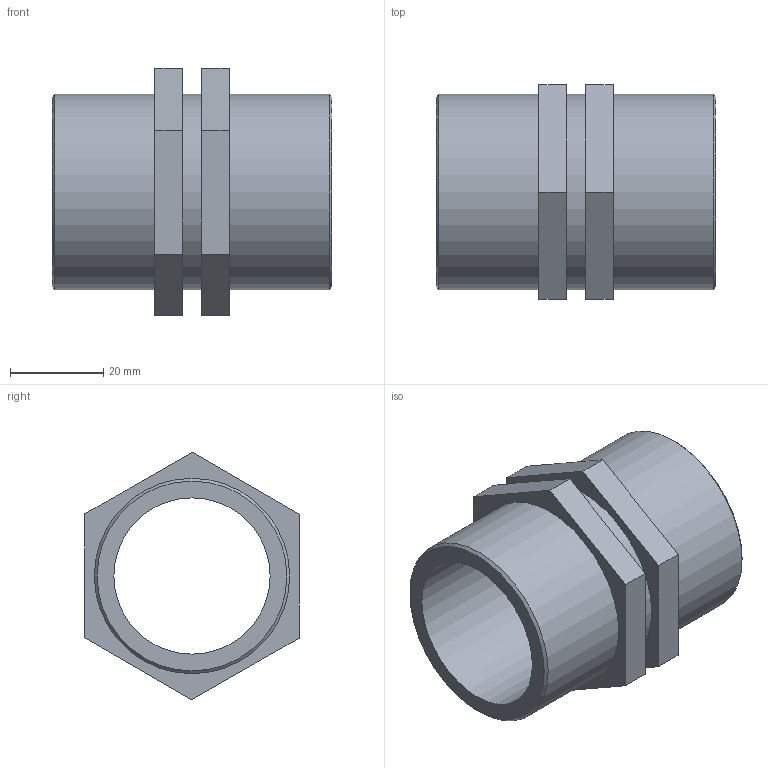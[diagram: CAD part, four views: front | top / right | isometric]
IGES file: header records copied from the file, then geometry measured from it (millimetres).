
Global section: file name: 050607013_0506070130A.ipt; native system: Autodesk Inventor 2015; preprocessor: unknown; author: KIM; date: 20170618.093256; units: millimetre
Bounding box: 60 x 46.08 x 53.12 mm (x, y, z)
Volume: 35186.5 mm3; surface area: 17263.7 mm2
Topology: 1 solids, 1 shells, 24 faces, 54 edges, 36 vertices
Faces by surface type: plane 18, cylinder 3, cone 2, revolution 1
Full cylindrical faces by diameter (mm): 41.91 x3
